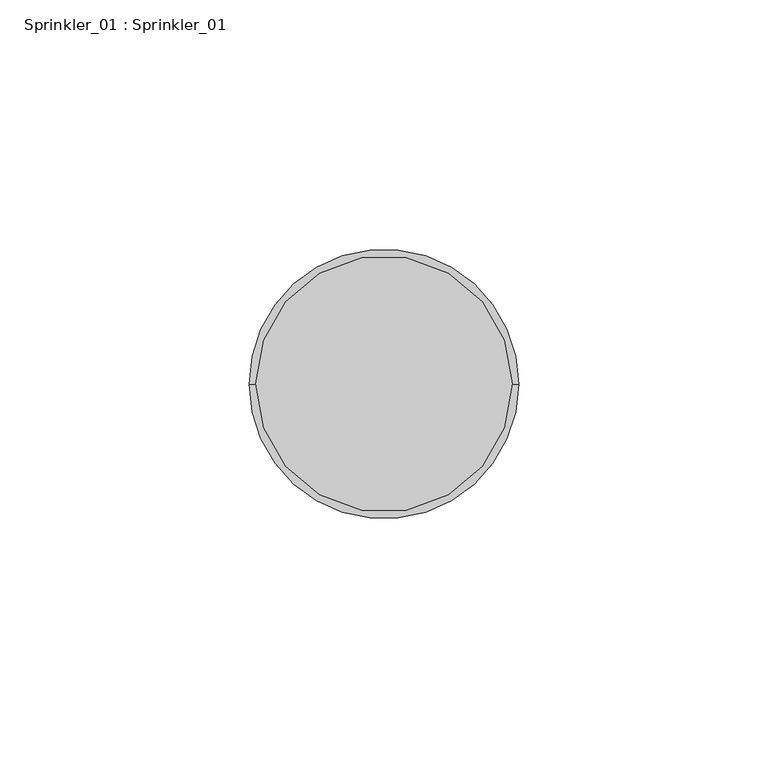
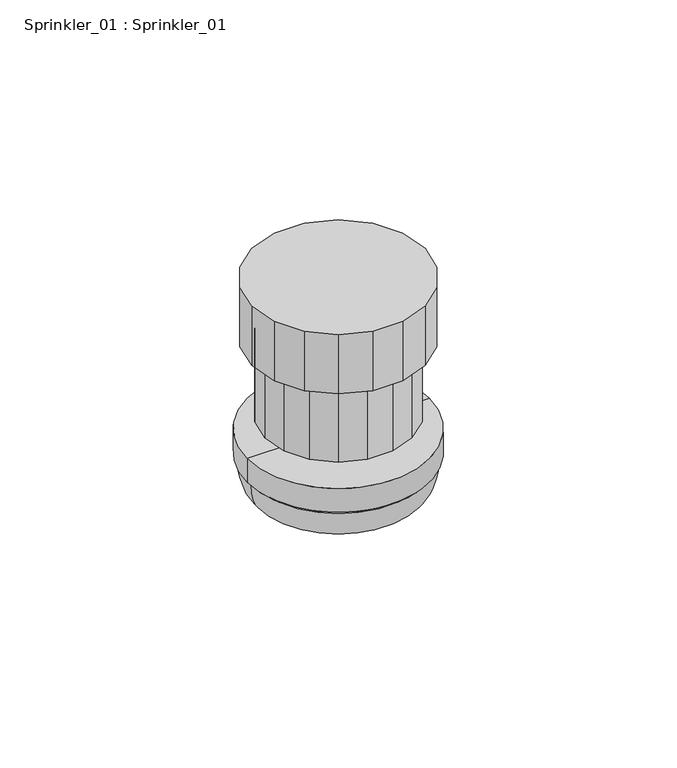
"""IFC4 building model written with IfcOpenShell, lengths in millimetres: fire suppression terminal geometry, Sprinkler_01 : Sprinkler_01."""

from ifc_helpers import new_model, si_unit, frame, origin, place, context, project, spatial, polyline, circle_curve, outline, extrude, source, transform, mapped, element, save
from ifc_brep_helpers import plane_surface, cylinder_surface, revolved_surface, spline_curve, advanced_brep


def sprinkler_01_sprinkler_01_96afb536(model_context):
    return source(origin(), model_context, "Body", "SolidModel", [
        advanced_brep(
        [(0.0, 0.0, -47.3970337), (27.0001221, 0.0, -47.3970337), (-27.0001221, 0.0, -47.3970337), (-11.4950562, 0.0, -66.0692139), (11.4950562, 0.0, -66.0692139), (0.0, 0.0, -66.0692139), (-12.7307129, 0.0, -67.0), (12.7307129, 0.0, -67.0), (-25.9527588, 0.0, -55.927002), (25.9527588, 0.0, -55.927002), (-27.0001221, 0.0, -54.8652954), (27.0001221, 0.0, -54.8652954)],
        [
            (0, 1),
            (1, 2, circle_curve(frame((0.0, 0.0, -47.3970337), z_axis=(0.0, 0.0, 1.0), x_axis=(1.0, 0.0, 0.0)), 27.0001221)),
            (2, 0),
            (2, 1, circle_curve(frame((0.0, 0.0, -47.3970337), z_axis=(0.0, 0.0, 1.0), x_axis=(1.0, 0.0, 0.0)), 27.0001221)),
            (3, 4, circle_curve(frame((0.0, 0.0, -66.0692139), z_axis=(0.0, 0.0, -1.0), x_axis=(1.0, 0.0, 0.0)), 11.4950562)),
            (4, 5),
            (5, 3),
            (4, 3, circle_curve(frame((0.0, 0.0, -66.0692139), z_axis=(0.0, 0.0, -1.0), x_axis=(1.0, 0.0, 0.0)), 11.4950562)),
            (6, 7, circle_curve(frame((0.0, 0.0, -67.0), z_axis=(0.0, 0.0, -1.0), x_axis=(1.0, 0.0, 0.0)), 12.7307129)),
            (7, 4),
            (3, 6),
            (7, 6, circle_curve(frame((0.0, 0.0, -67.0), z_axis=(0.0, 0.0, -1.0), x_axis=(1.0, 0.0, 0.0)), 12.7307129)),
            (8, 9, circle_curve(frame((0.0, 0.0, -55.927002), z_axis=(0.0, 0.0, -1.0), x_axis=(1.0, 0.0, 0.0)), 25.9527588)),
            (9, 7, spline_curve(3, [(25.9527588, 0.0, -55.927002), (25.9527588, 0.0, -62.282684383), (24.459059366, 0.0, -64.01800354), (19.124778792, 0.0, -66.121354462), (15.762958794, 0.0, -66.681298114), (12.7307129, 0.0, -67.0)], [4, 2, 4], [0.0, 0.019788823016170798, 0.03596135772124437])),
            (6, 8, spline_curve(3, [(-12.7307129, 0.0, -67.0), (-15.762958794, 0.0, -66.681298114), (-19.124778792, 0.0, -66.121354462), (-24.459059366, 0.0, -64.01800354), (-25.9527588, 0.0, -62.282684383), (-25.9527588, 0.0, -55.927002)], [4, 2, 4], [0.0, 0.01617253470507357, 0.03596135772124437])),
            (9, 8, circle_curve(frame((0.0, 0.0, -55.927002), z_axis=(0.0, 0.0, -1.0), x_axis=(1.0, 0.0, 0.0)), 25.9527588)),
            (10, 11, circle_curve(frame((0.0, 0.0, -54.8652954), z_axis=(0.0, 0.0, -1.0), x_axis=(1.0, 0.0, 0.0)), 27.0001221)),
            (11, 9),
            (8, 10),
            (11, 10, circle_curve(frame((0.0, 0.0, -54.8652954), z_axis=(0.0, 0.0, -1.0), x_axis=(1.0, 0.0, 0.0)), 27.0001221)),
            (1, 11),
            (10, 2),
        ],
        [
            plane_surface(frame((0.0, 0.0, -47.3970337), z_axis=(0.0, 0.0, 1.0), x_axis=(1.0, 0.0, 0.0))),
            plane_surface(frame((0.0, 0.0, -66.0692139), z_axis=(0.0, 0.0, -1.0), x_axis=(1.0, 0.0, 0.0))),
            revolved_surface(polyline([(11.4950562, 0.0, -66.0692139), (12.7307129, 0.0, -67.0)]), (0.0, 0.0, -7.0), (0.0, 0.0, 1.0)),
            revolved_surface(spline_curve(3, [(12.7307129, 0.0, -67.0), (15.762958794, 0.0, -66.681298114), (19.124778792, 0.0, -66.121354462), (24.459059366, 0.0, -64.01800354), (25.9527588, 0.0, -62.282684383), (25.9527588, 0.0, -55.927002)], [4, 2, 4], [0.0, 0.01617253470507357, 0.03596135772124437]), (0.0, 0.0, -7.0), (0.0, 0.0, 1.0)),
            revolved_surface(polyline([(25.9527588, 0.0, -55.927002), (27.0001221, 0.0, -54.8652954)]), (0.0, 0.0, -7.0), (0.0, 0.0, 1.0)),
            cylinder_surface(frame((0.0, 0.0, -7.0), z_axis=(0.0, 0.0, 1.0), x_axis=(1.0, 0.0, 0.0)), 27.0001221),
        ],
        [
            (0, [[1, 2, 3]]),
            (0, [[-3, 4, -1]]),
            (1, [[5, 6, 7]]),
            (1, [[8, -7, -6]]),
            (2, [[9, 10, -5, 11]]),
            (2, [[12, -11, -8, -10]]),
            (3, [[13, 14, -9, 15]]),
            (3, [[16, -15, -12, -14]]),
            (4, [[17, 18, -13, 19]]),
            (4, [[20, -19, -16, -18]]),
            (5, [[-2, 21, -17, 22]]),
            (5, [[-4, -22, -20, -21]]),
        ],
    ),
        extrude(outline(polyline([(2.5097656, 14.2341888), (7.2271729, 12.5172698), (11.0723877, 9.2906457), (13.5821533, 4.9434164), (14.4537354, -0.0001259), (13.5821533, -4.9436685), (11.0723877, -9.2908973), (7.2271729, -12.5175202), (2.5097656, -14.2344391), (-2.5097656, -14.2344391), (-7.2271729, -12.5175202), (-11.0723877, -9.2908973), (-13.5821533, -4.9436685), (-14.4537354, -0.0001259), (-13.5821533, 4.9434164), (-11.0723877, 9.2906457), (-7.2271729, 12.5172698), (-2.5097656, 14.2341888), (2.5097656, 14.2341888)])), frame((0.0, 0.0, -59.0335226), z_axis=(0.0, 0.0, 1.0), x_axis=(1.0, 0.0, 0.0)), (0.0, 0.0, 1.0), 16.3021851),
        extrude(outline(polyline([(20.4934695, -7.4589276), (16.706543, -14.0183759), (10.904541, -18.8868451), (3.7869263, -21.4774847), (-3.7869197, -21.4774847), (-10.9045422, -18.8868451), (-16.706543, -14.0183759), (-20.4934695, -7.4589284), (-21.8084717, -0.0001282), (-20.4934688, 7.4589809), (-16.706543, 14.0184283), (-10.904541, 18.8868976), (-3.7869263, 21.4772272), (3.7869328, 21.4772272), (10.9045398, 18.8868976), (16.706543, 14.0184283), (20.4934695, 7.4589784), (21.8084717, -0.0001265), (20.4934695, -7.4589276)])), frame((0.0, 0.0, -42.7313375), z_axis=(0.0, 0.0, 1.0), x_axis=(1.0, 0.0, 0.0)), (0.0, 0.0, 1.0), 24.0948486),
        extrude(outline(polyline([(24.1427612, 8.7871033), (25.6921387, -0.0001281), (24.1427612, -8.7873596), (19.6813965, -16.514715), (12.8463745, -22.2501898), (4.4613647, -25.3019476), (-4.4613647, -25.3019476), (-12.8463745, -22.2501898), (-19.6813965, -16.514715), (-24.1427612, -8.7873596), (-25.6921387, -0.0001281), (-24.1427612, 8.7871033), (-19.6813965, 16.5144598), (-12.8463745, 22.2502375), (-4.4613647, 25.3019953), (4.4613647, 25.3019953), (12.8463745, 22.2499323), (19.6813965, 16.5144598), (24.1427612, 8.7871033)])), frame((0.0, 0.0, -18.6364889), z_axis=(0.0, 0.0, 1.0), x_axis=(1.0, 0.0, 0.0)), (0.0, 0.0, 1.0), 18.6364889),
    ])


if __name__ == "__main__":
    model = new_model("IFC4")
    model_context = context("Model", 3, world=origin())
    ifc_project = project(units=[si_unit("LENGTHUNIT", "METRE", prefix="MILLI")], contexts=[model_context])
    site = spatial("IfcSite", under=ifc_project)
    building = spatial("IfcBuilding", under=site)
    placement = place(None, origin())
    sprinkler_01_sprinkler_01_shape = sprinkler_01_sprinkler_01_96afb536(model_context)
    element("IfcFireSuppressionTerminal", 1, ObjectType="Sprinkler_01 : Sprinkler_01", at=placement, inside=building, context=model_context, shape_type="MappedRepresentation", body=[
        mapped(sprinkler_01_sprinkler_01_shape, transform((0.0, 0.0, 0.0), x_axis=(1.0, 0.0, 0.0), y_axis=(0.0, 1.0, 0.0), z_axis=(0.0, 0.0, 1.0))),
    ])
    save(model, "model.ifc")
